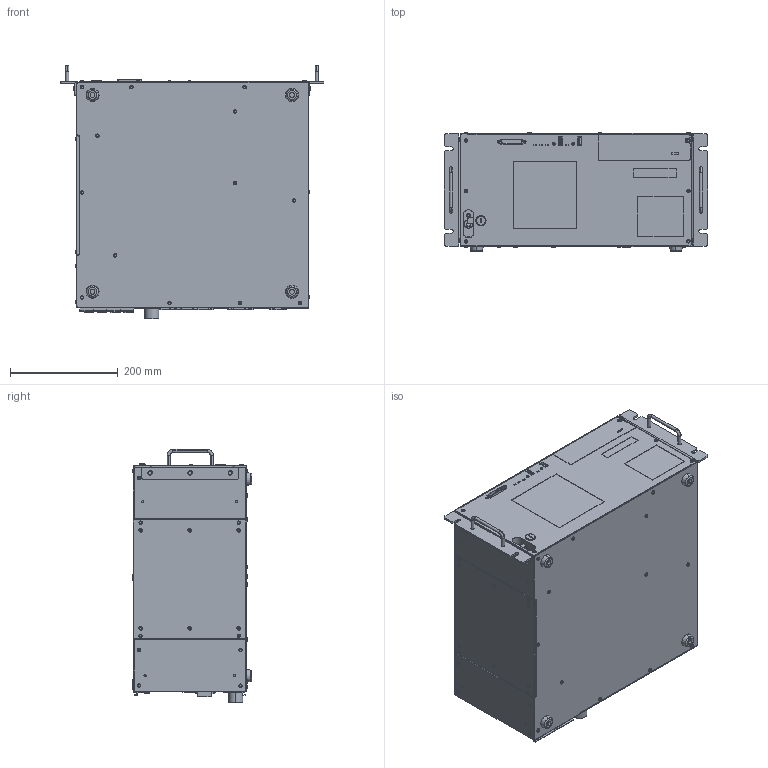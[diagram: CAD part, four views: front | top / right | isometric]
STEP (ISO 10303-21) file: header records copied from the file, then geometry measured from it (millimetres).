
FILE_DESCRIPTION( ( '' ), '1' );
FILE_NAME( '//expscmdclustefs.cadenas.external/client_exchange/iodir/jobs/output/wkb51549387_no0/STEP/RC620_2_03.stp', '2012-11-23T14:12:16', ( '' ), ( '' ), ' ', ' ', ' ' );
FILE_SCHEMA( ( 'CONFIG_CONTROL_DESIGN' ) );
Length unit declared in the file: millimetre
Products named in the file (3): 1; 2; 3
Bounding box: 489 x 221.9 x 469.81 mm (x, y, z)
Volume: 37696294.7 mm3; surface area: 812196.5 mm2
Topology: 3 solids, 3 shells, 1427 faces, 3630 edges, 2411 vertices
Faces by surface type: plane 791, cylinder 349, torus 153, cone 134
Entity records: 43667 total; most frequent: DIRECTION 7909, CARTESIAN_POINT 7493, ORIENTED_EDGE 7260, EDGE_CURVE 3630, AXIS2_PLACEMENT_3D 2851, VERTEX_POINT 2411, LINE 2207, VECTOR 2207
